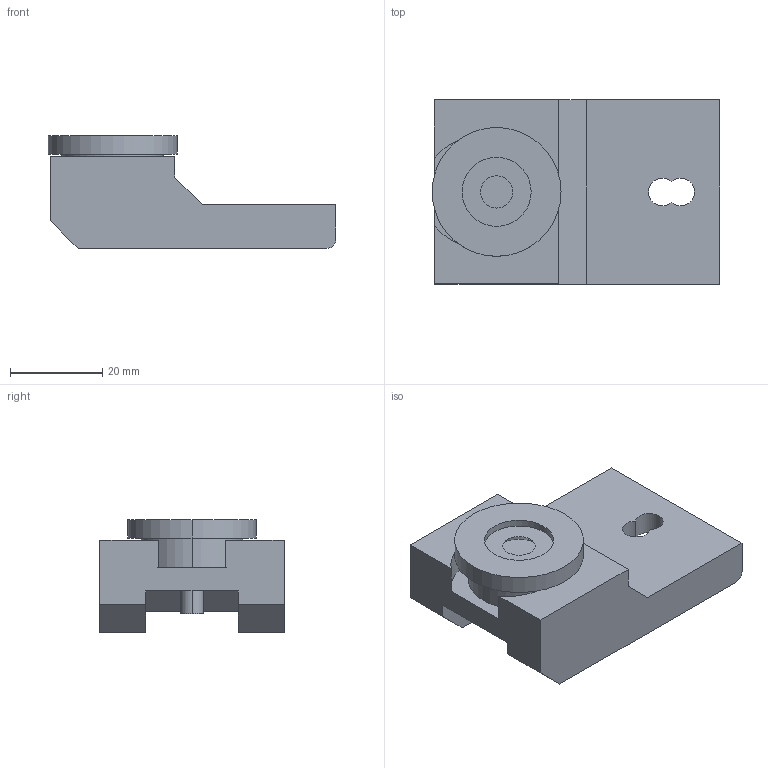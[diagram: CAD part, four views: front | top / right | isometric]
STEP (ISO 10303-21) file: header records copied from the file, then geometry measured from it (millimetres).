
FILE_DESCRIPTION((''),'2;1');
FILE_NAME('CHM3045_ASM','2002-12-27T',('Lipro doo'),('Lipro d.o.o.'),'PRO/ENGINEER BY PARAMETRIC TECHNOLOGY CORPORATION, 2001150','PRO/ENGINEER BY PARAMETRIC TECHNOLOGY CORPORATION, 2001150','');
FILE_SCHEMA(('CONFIG_CONTROL_DESIGN'));
Length unit declared in the file: millimetre
Products named in the file (4): CHM_1; CHM_2; CHM_33; CHM3045_ASM
Assembly tree (3 placements, depth 2):
  CHM3045_ASM
    CHM_1
    CHM_2
    CHM_33
Bounding box: 62.5 x 40 x 24.5 mm (x, y, z)
Volume: 28781.3 mm3; surface area: 12063.5 mm2
Topology: 3 solids, 4 shells, 43 faces, 105 edges, 70 vertices
Faces by surface type: plane 24, cylinder 17, cone 2
Entity records: 1415 total; most frequent: DIRECTION 247, CARTESIAN_POINT 227, ORIENTED_EDGE 206, EDGE_CURVE 105, AXIS2_PLACEMENT_3D 90, VERTEX_POINT 70, VECTOR 67, LINE 67
